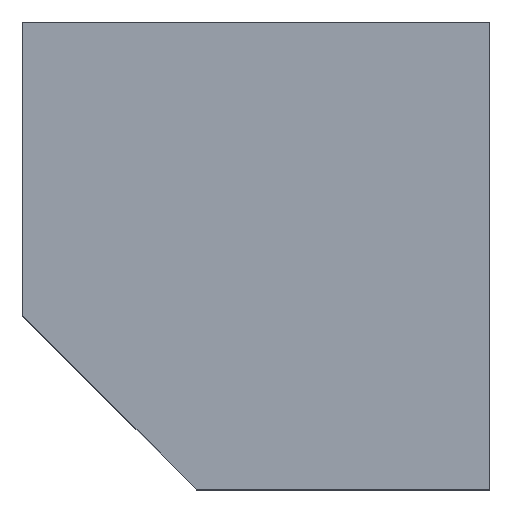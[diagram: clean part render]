
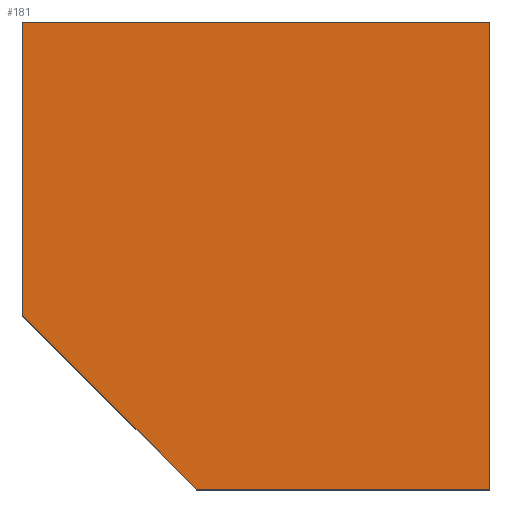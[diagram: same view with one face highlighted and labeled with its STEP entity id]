
A CAD part, top view. The second image highlights one B-rep face of the part: STEP entity #181.
In plain terms, the highlighted planar face has unit normal (0, 0, 1).
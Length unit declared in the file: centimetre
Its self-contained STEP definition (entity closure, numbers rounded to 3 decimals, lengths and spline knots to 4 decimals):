
#23 = DIRECTION ( 'NONE',  ( 0.707, -0.707, 0. ) ) ;
#27 = DIRECTION ( 'NONE',  ( 1., 0., 0. ) ) ;
#29 = LINE ( 'NONE', #470, #188 ) ;
#42 = VERTEX_POINT ( 'NONE', #307 ) ;
#48 = VECTOR ( 'NONE', #143, 100. ) ;
#61 = AXIS2_PLACEMENT_3D ( 'NONE', #66, #356, #27 ) ;
#66 = CARTESIAN_POINT ( 'NONE',  ( 0., 0., 1000. ) ) ;
#76 = CARTESIAN_POINT ( 'NONE',  ( 1000., 0., 1000. ) ) ;
#100 = VECTOR ( 'NONE', #436, 100. ) ;
#116 = EDGE_LOOP ( 'NONE', ( #155, #152, #187, #377, #205 ) ) ;
#143 = DIRECTION ( 'NONE',  ( -1., 0., 0. ) ) ;
#152 = ORIENTED_EDGE ( 'NONE', *, *, #199, .T. ) ;
#155 = ORIENTED_EDGE ( 'NONE', *, *, #308, .T. ) ;
#164 = CARTESIAN_POINT ( 'NONE',  ( 372.2382, 0., 1000. ) ) ;
#181 = ADVANCED_FACE ( 'NONE', ( #431 ), #247, .T. ) ;
#183 = LINE ( 'NONE', #397, #100 ) ;
#187 = ORIENTED_EDGE ( 'NONE', *, *, #268, .T. ) ;
#188 = VECTOR ( 'NONE', #328, 100. ) ;
#199 = EDGE_CURVE ( 'NONE', #409, #421, #288, .T. ) ;
#205 = ORIENTED_EDGE ( 'NONE', *, *, #314, .T. ) ;
#247 = PLANE ( 'NONE',  #61 ) ;
#268 = EDGE_CURVE ( 'NONE', #421, #340, #331, .T. ) ;
#274 = CARTESIAN_POINT ( 'NONE',  ( 0., 372.2382, 1000. ) ) ;
#288 = LINE ( 'NONE', #326, #433 ) ;
#292 = CARTESIAN_POINT ( 'NONE',  ( 0., 1000., 1000. ) ) ;
#299 = VERTEX_POINT ( 'NONE', #407 ) ;
#307 = CARTESIAN_POINT ( 'NONE',  ( 0., 1000., 1000. ) ) ;
#308 = EDGE_CURVE ( 'NONE', #42, #409, #183, .T. ) ;
#314 = EDGE_CURVE ( 'NONE', #299, #42, #357, .T. ) ;
#326 = CARTESIAN_POINT ( 'NONE',  ( 186.1191, 186.1191, 1000. ) ) ;
#328 = DIRECTION ( 'NONE',  ( 0., 1., 0. ) ) ;
#331 = LINE ( 'NONE', #399, #467 ) ;
#340 = VERTEX_POINT ( 'NONE', #76 ) ;
#356 = DIRECTION ( 'NONE',  ( 0., 0., 1. ) ) ;
#357 = LINE ( 'NONE', #292, #48 ) ;
#365 = EDGE_CURVE ( 'NONE', #340, #299, #29, .T. ) ;
#377 = ORIENTED_EDGE ( 'NONE', *, *, #365, .T. ) ;
#397 = CARTESIAN_POINT ( 'NONE',  ( 0., 1000., 1000. ) ) ;
#399 = CARTESIAN_POINT ( 'NONE',  ( 0., 0., 1000. ) ) ;
#407 = CARTESIAN_POINT ( 'NONE',  ( 1000., 1000., 1000. ) ) ;
#409 = VERTEX_POINT ( 'NONE', #274 ) ;
#421 = VERTEX_POINT ( 'NONE', #164 ) ;
#431 = FACE_OUTER_BOUND ( 'NONE', #116, .T. ) ;
#433 = VECTOR ( 'NONE', #23, 100. ) ;
#436 = DIRECTION ( 'NONE',  ( 0., -1., 0. ) ) ;
#439 = DIRECTION ( 'NONE',  ( 1., 0., 0. ) ) ;
#467 = VECTOR ( 'NONE', #439, 100. ) ;
#470 = CARTESIAN_POINT ( 'NONE',  ( 1000., 1000., 1000. ) ) ;
